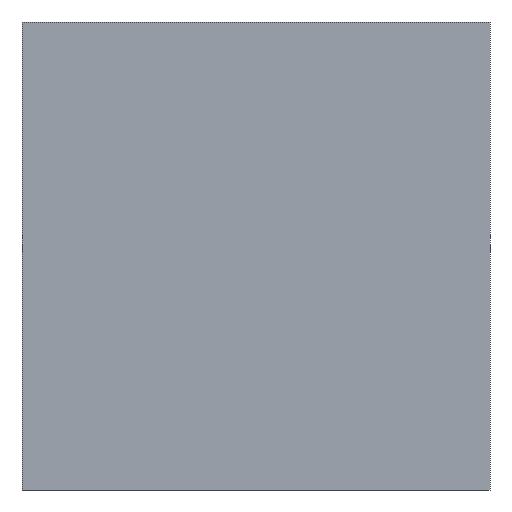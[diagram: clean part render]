
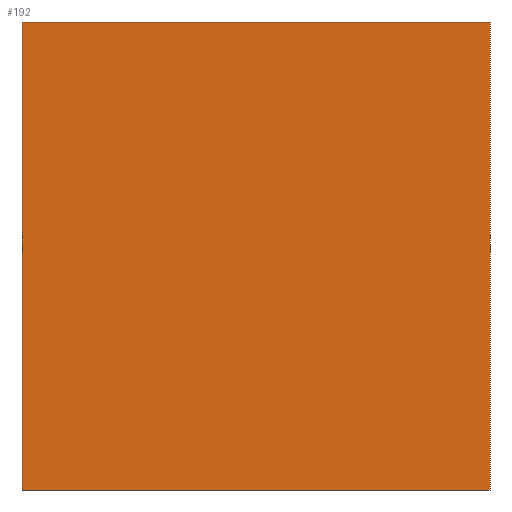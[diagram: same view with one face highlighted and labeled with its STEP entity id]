
A CAD part, left-side view. The second image highlights one B-rep face of the part: STEP entity #192.
In plain terms, the highlighted planar face has unit normal (-1, 0, 0).
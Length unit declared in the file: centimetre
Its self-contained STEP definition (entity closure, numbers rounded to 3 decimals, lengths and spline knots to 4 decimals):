
#18 = PLANE ( 'NONE',  #42 ) ;
#22 = FACE_OUTER_BOUND ( 'NONE', #278, .T. ) ;
#42 = AXIS2_PLACEMENT_3D ( 'NONE', #177, #416, #496 ) ;
#43 = EDGE_CURVE ( 'NONE', #475, #90, #63, .T. ) ;
#58 = CARTESIAN_POINT ( 'NONE',  ( 0., 0., 0. ) ) ;
#63 = LINE ( 'NONE', #293, #446 ) ;
#72 = LINE ( 'NONE', #506, #423 ) ;
#73 = CARTESIAN_POINT ( 'NONE',  ( 0., 0., 1000. ) ) ;
#90 = VERTEX_POINT ( 'NONE', #58 ) ;
#111 = CARTESIAN_POINT ( 'NONE',  ( 0., 1000., 0. ) ) ;
#114 = DIRECTION ( 'NONE',  ( 0., 0., -1. ) ) ;
#126 = CARTESIAN_POINT ( 'NONE',  ( 0., 0., 1000. ) ) ;
#134 = ORIENTED_EDGE ( 'NONE', *, *, #43, .T. ) ;
#168 = CARTESIAN_POINT ( 'NONE',  ( 0., 1000., 1000. ) ) ;
#172 = LINE ( 'NONE', #73, #491 ) ;
#176 = VECTOR ( 'NONE', #397, 100. ) ;
#177 = CARTESIAN_POINT ( 'NONE',  ( 0., 1000., 1000. ) ) ;
#192 = ADVANCED_FACE ( 'NONE', ( #22 ), #18, .F. ) ;
#202 = EDGE_CURVE ( 'NONE', #375, #90, #172, .T. ) ;
#247 = ORIENTED_EDGE ( 'NONE', *, *, #312, .F. ) ;
#278 = EDGE_LOOP ( 'NONE', ( #134, #481, #247, #381 ) ) ;
#293 = CARTESIAN_POINT ( 'NONE',  ( 0., 1000., 0. ) ) ;
#312 = EDGE_CURVE ( 'NONE', #401, #375, #483, .T. ) ;
#337 = DIRECTION ( 'NONE',  ( 0., 0., -1. ) ) ;
#375 = VERTEX_POINT ( 'NONE', #126 ) ;
#381 = ORIENTED_EDGE ( 'NONE', *, *, #507, .T. ) ;
#397 = DIRECTION ( 'NONE',  ( 0., -1., 0. ) ) ;
#401 = VERTEX_POINT ( 'NONE', #421 ) ;
#416 = DIRECTION ( 'NONE',  ( 1., 0., 0. ) ) ;
#421 = CARTESIAN_POINT ( 'NONE',  ( 0., 1000., 1000. ) ) ;
#423 = VECTOR ( 'NONE', #114, 100. ) ;
#446 = VECTOR ( 'NONE', #502, 100. ) ;
#475 = VERTEX_POINT ( 'NONE', #111 ) ;
#481 = ORIENTED_EDGE ( 'NONE', *, *, #202, .F. ) ;
#483 = LINE ( 'NONE', #168, #176 ) ;
#491 = VECTOR ( 'NONE', #337, 100. ) ;
#496 = DIRECTION ( 'NONE',  ( 0., 0., -1. ) ) ;
#502 = DIRECTION ( 'NONE',  ( 0., -1., 0. ) ) ;
#506 = CARTESIAN_POINT ( 'NONE',  ( 0., 1000., 1000. ) ) ;
#507 = EDGE_CURVE ( 'NONE', #401, #475, #72, .T. ) ;
